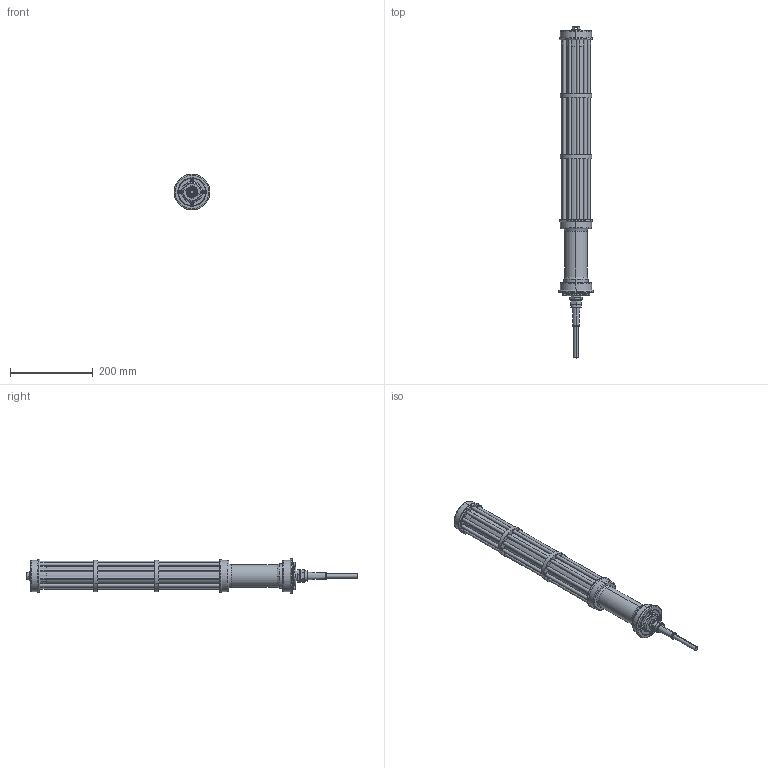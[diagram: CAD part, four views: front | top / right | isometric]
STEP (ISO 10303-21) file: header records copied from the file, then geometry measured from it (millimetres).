
FILE_DESCRIPTION (( 'STEP AP203' ), '1' );
FILE_NAME ('EPL-FL1524 LED Step.STEP', '2013-10-17T18:35:43', ( 'upslen' ), ( '' ), 'SwSTEP 2.0', 'SolidWorks 2013', '' );
FILE_SCHEMA (( 'CONFIG_CONTROL_DESIGN' ));
Length unit declared in the file: inch
Products named in the file (6): Handle; Bulb; Top; EPL-FL1524 LED Step; Cage; Lens
Assembly tree (5 placements, depth 2):
  EPL-FL1524 LED Step
    Cage
    Lens
    Handle
    Bulb
    Top
Bounding box: 86.36 x 804.04 x 86.36 mm (x, y, z)
Volume: 1491816.8 mm3; surface area: 394789.8 mm2
Topology: 5 solids, 5 shells, 253 faces, 630 edges, 408 vertices
Faces by surface type: plane 108, cylinder 101, bspline 36, cone 8
Entity records: 9472 total; most frequent: CARTESIAN_POINT 2709, DIRECTION 1318, ORIENTED_EDGE 1260, EDGE_CURVE 630, AXIS2_PLACEMENT_3D 513, VERTEX_POINT 408, EDGE_LOOP 316, LINE 292
